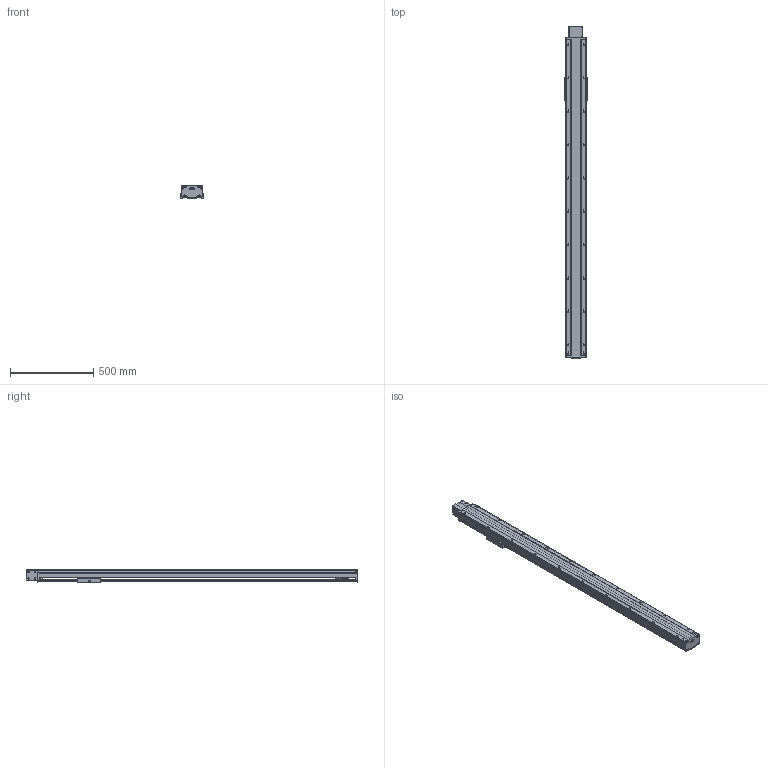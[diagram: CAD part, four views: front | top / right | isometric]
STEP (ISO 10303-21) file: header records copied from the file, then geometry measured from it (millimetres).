
FILE_DESCRIPTION(/* description */ (''),/* implementation_level */ '2;1');
FILE_NAME(/* name */ 'TKB120-FR-1600_asm1_stp.stp',/* time_stamp */ '2016-06-28T16:11:53+08:00',/* author */ (''),/* organization */ (''),/* preprocessor_version */ 'ST-DEVELOPER v15',/* originating_system */ 'SIEMENS PLM Software NX 8.5',/* authorisation */ '');
FILE_SCHEMA (('AUTOMOTIVE_DESIGN { 1 0 10303 214 3 1 1 1 }'));
Length unit declared in the file: millimetre
Products named in the file (3): 200-2; 200-1; TKB120-FR-1600_asm1_stp
Assembly tree (2 placements, depth 2):
  TKB120-FR-1600_asm1_stp
    200-1
    200-2
Bounding box: 134 x 1991 x 80 mm (x, y, z)
Volume: 4932170.8 mm3; surface area: 2027171.2 mm2
Topology: 2 solids, 3 shells, 847 faces, 2463 edges, 1613 vertices
Faces by surface type: cylinder 423, plane 382, cone 42
Full cylindrical faces by diameter (mm): 2.5 x4, 3.3 x20, 4.2 x4, 4.5 x24, 5 x32, 5.5 x22, 6.6 x6, 6.8 x4, 7.5 x4, 8 x12, 9 x6, 9.75 x44, 10.5 x4, 11 x2, 12 x4, 14 x2, 17 x2, 35 x2, 40 x3, 50 x2, 52 x1
Entity records: 27838 total; most frequent: CARTESIAN_POINT 6069, DIRECTION 4561, ORIENTED_EDGE 4204, EDGE_CURVE 2102, AXIS2_PLACEMENT_3D 1742, VERTEX_POINT 1540, EDGE_LOOP 1296, LINE 1077
